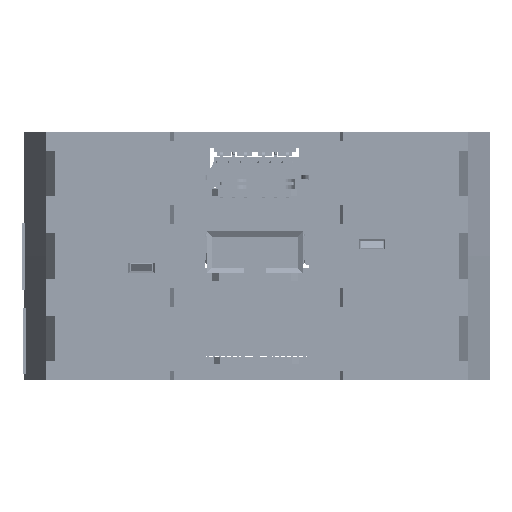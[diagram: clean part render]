
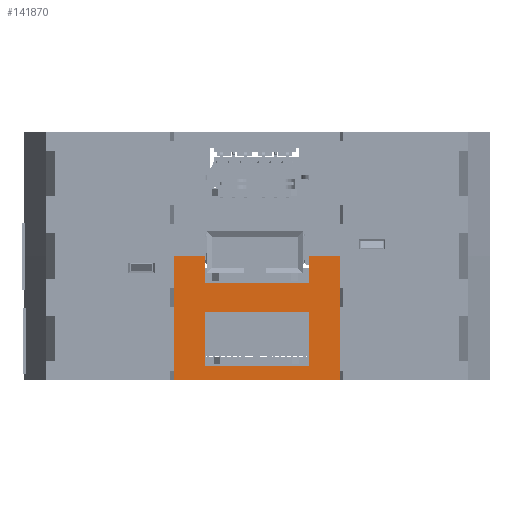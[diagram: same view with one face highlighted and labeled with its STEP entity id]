
A CAD part, front view. The second image highlights one B-rep face of the part: STEP entity #141870.
In plain terms, the highlighted planar face has unit normal (0, -1, 0).
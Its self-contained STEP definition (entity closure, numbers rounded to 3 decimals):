
#5619=FACE_BOUND('',#22326,.T.);
#14222=FACE_OUTER_BOUND('',#22325,.T.);
#22325=EDGE_LOOP('',(#116808,#116809,#116810,#116811,#116812,#116813,#116814,
#116815,#116816,#116817,#116818,#116819,#116820,#116821));
#22326=EDGE_LOOP('',(#116822,#116823,#116824,#116825));
#35656=LINE('',#233890,#52421);
#35792=LINE('',#234183,#52557);
#35831=LINE('',#234261,#52596);
#35832=LINE('',#234264,#52597);
#35833=LINE('',#234266,#52598);
#35834=LINE('',#234268,#52599);
#35835=LINE('',#234269,#52600);
#35836=LINE('',#234271,#52601);
#35837=LINE('',#234273,#52602);
#35838=LINE('',#234275,#52603);
#35839=LINE('',#234277,#52604);
#35840=LINE('',#234279,#52605);
#35841=LINE('',#234281,#52606);
#35842=LINE('',#234282,#52607);
#35843=LINE('',#234285,#52608);
#35844=LINE('',#234287,#52609);
#35845=LINE('',#234289,#52610);
#35846=LINE('',#234290,#52611);
#52421=VECTOR('',#179415,1.);
#52557=VECTOR('',#179607,1.);
#52596=VECTOR('',#179654,1.);
#52597=VECTOR('',#179657,1.);
#52598=VECTOR('',#179658,1.);
#52599=VECTOR('',#179659,1.);
#52600=VECTOR('',#179660,1.);
#52601=VECTOR('',#179661,1.);
#52602=VECTOR('',#179662,1.);
#52603=VECTOR('',#179663,1.);
#52604=VECTOR('',#179664,1.);
#52605=VECTOR('',#179665,1.);
#52606=VECTOR('',#179666,1.);
#52607=VECTOR('',#179667,1.);
#52608=VECTOR('',#179668,1.);
#52609=VECTOR('',#179669,1.);
#52610=VECTOR('',#179670,1.);
#52611=VECTOR('',#179671,1.);
#66826=VERTEX_POINT('',#233887);
#66827=VERTEX_POINT('',#233889);
#66955=VERTEX_POINT('',#234180);
#66956=VERTEX_POINT('',#234182);
#66991=VERTEX_POINT('',#234259);
#66992=VERTEX_POINT('',#234263);
#66993=VERTEX_POINT('',#234265);
#66994=VERTEX_POINT('',#234267);
#66995=VERTEX_POINT('',#234270);
#66996=VERTEX_POINT('',#234272);
#66997=VERTEX_POINT('',#234274);
#66998=VERTEX_POINT('',#234276);
#66999=VERTEX_POINT('',#234278);
#67000=VERTEX_POINT('',#234280);
#67001=VERTEX_POINT('',#234283);
#67002=VERTEX_POINT('',#234284);
#67003=VERTEX_POINT('',#234286);
#67004=VERTEX_POINT('',#234288);
#84207=EDGE_CURVE('',#66827,#66826,#35656,.T.);
#84353=EDGE_CURVE('',#66955,#66956,#35792,.T.);
#84394=EDGE_CURVE('',#66956,#66991,#35831,.T.);
#84395=EDGE_CURVE('',#66992,#66827,#35832,.T.);
#84396=EDGE_CURVE('',#66993,#66826,#35833,.T.);
#84397=EDGE_CURVE('',#66994,#66993,#35834,.T.);
#84398=EDGE_CURVE('',#66991,#66994,#35835,.T.);
#84399=EDGE_CURVE('',#66955,#66995,#35836,.T.);
#84400=EDGE_CURVE('',#66995,#66996,#35837,.T.);
#84401=EDGE_CURVE('',#66996,#66997,#35838,.T.);
#84402=EDGE_CURVE('',#66997,#66998,#35839,.T.);
#84403=EDGE_CURVE('',#66998,#66999,#35840,.T.);
#84404=EDGE_CURVE('',#66999,#67000,#35841,.T.);
#84405=EDGE_CURVE('',#67000,#66992,#35842,.T.);
#84406=EDGE_CURVE('',#67001,#67002,#35843,.T.);
#84407=EDGE_CURVE('',#67002,#67003,#35844,.T.);
#84408=EDGE_CURVE('',#67003,#67004,#35845,.T.);
#84409=EDGE_CURVE('',#67004,#67001,#35846,.T.);
#116808=ORIENTED_EDGE('',*,*,#84395,.T.);
#116809=ORIENTED_EDGE('',*,*,#84207,.T.);
#116810=ORIENTED_EDGE('',*,*,#84396,.F.);
#116811=ORIENTED_EDGE('',*,*,#84397,.F.);
#116812=ORIENTED_EDGE('',*,*,#84398,.F.);
#116813=ORIENTED_EDGE('',*,*,#84394,.F.);
#116814=ORIENTED_EDGE('',*,*,#84353,.F.);
#116815=ORIENTED_EDGE('',*,*,#84399,.T.);
#116816=ORIENTED_EDGE('',*,*,#84400,.T.);
#116817=ORIENTED_EDGE('',*,*,#84401,.T.);
#116818=ORIENTED_EDGE('',*,*,#84402,.T.);
#116819=ORIENTED_EDGE('',*,*,#84403,.T.);
#116820=ORIENTED_EDGE('',*,*,#84404,.T.);
#116821=ORIENTED_EDGE('',*,*,#84405,.T.);
#116822=ORIENTED_EDGE('',*,*,#84406,.T.);
#116823=ORIENTED_EDGE('',*,*,#84407,.T.);
#116824=ORIENTED_EDGE('',*,*,#84408,.T.);
#116825=ORIENTED_EDGE('',*,*,#84409,.T.);
#135072=PLANE('',#151632);
#141870=ADVANCED_FACE('',(#14222,#5619),#135072,.T.);
#151632=AXIS2_PLACEMENT_3D('',#234262,#179655,#179656);
#179415=DIRECTION('',(-1.,0.,0.));
#179607=DIRECTION('',(-1.,0.,0.));
#179654=DIRECTION('',(0.,0.,1.));
#179655=DIRECTION('center_axis',(0.,-1.,0.));
#179656=DIRECTION('ref_axis',(0.,0.,-1.));
#179657=DIRECTION('',(0.,0.,1.));
#179658=DIRECTION('',(0.,0.,1.));
#179659=DIRECTION('',(0.,0.,1.));
#179660=DIRECTION('',(0.,0.,1.));
#179661=DIRECTION('',(0.,0.,1.));
#179662=DIRECTION('',(0.,0.,1.));
#179663=DIRECTION('',(0.,0.,1.));
#179664=DIRECTION('',(0.,0.,1.));
#179665=DIRECTION('',(-1.,0.,0.));
#179666=DIRECTION('',(0.,0.,-1.));
#179667=DIRECTION('',(-1.,0.,0.));
#179668=DIRECTION('',(0.,0.,-1.));
#179669=DIRECTION('',(-1.,0.,0.));
#179670=DIRECTION('',(0.,0.,1.));
#179671=DIRECTION('',(1.,0.,0.));
#233887=CARTESIAN_POINT('',(3.4,-103.65,26.25));
#233889=CARTESIAN_POINT('',(9.9,-103.65,26.25));
#233890=CARTESIAN_POINT('',(9.9,-103.65,26.25));
#234180=CARTESIAN_POINT('',(38.4,-103.65,0.));
#234182=CARTESIAN_POINT('',(3.4,-103.65,0.));
#234183=CARTESIAN_POINT('',(38.4,-103.65,0.));
#234259=CARTESIAN_POINT('',(3.4,-103.65,2.));
#234261=CARTESIAN_POINT('',(3.4,-103.65,0.));
#234262=CARTESIAN_POINT('Origin',(38.4,-103.65,0.));
#234263=CARTESIAN_POINT('',(9.9,-103.65,20.5));
#234264=CARTESIAN_POINT('',(9.9,-103.65,20.5));
#234265=CARTESIAN_POINT('',(3.4,-103.65,19.5));
#234266=CARTESIAN_POINT('',(3.4,-103.65,19.5));
#234267=CARTESIAN_POINT('',(3.4,-103.65,15.5));
#234268=CARTESIAN_POINT('',(3.4,-103.65,15.5));
#234269=CARTESIAN_POINT('',(3.4,-103.65,2.));
#234270=CARTESIAN_POINT('',(38.4,-103.65,2.));
#234271=CARTESIAN_POINT('',(38.4,-103.65,0.));
#234272=CARTESIAN_POINT('',(38.4,-103.65,15.5));
#234273=CARTESIAN_POINT('',(38.4,-103.65,2.));
#234274=CARTESIAN_POINT('',(38.4,-103.65,19.5));
#234275=CARTESIAN_POINT('',(38.4,-103.65,15.5));
#234276=CARTESIAN_POINT('',(38.4,-103.65,26.25));
#234277=CARTESIAN_POINT('',(38.4,-103.65,19.5));
#234278=CARTESIAN_POINT('',(31.9,-103.65,26.25));
#234279=CARTESIAN_POINT('',(38.4,-103.65,26.25));
#234280=CARTESIAN_POINT('',(31.9,-103.65,20.5));
#234281=CARTESIAN_POINT('',(31.9,-103.65,26.25));
#234282=CARTESIAN_POINT('',(31.9,-103.65,20.5));
#234283=CARTESIAN_POINT('',(31.9,-103.65,14.5));
#234284=CARTESIAN_POINT('',(31.9,-103.65,3.));
#234285=CARTESIAN_POINT('',(31.9,-103.65,14.5));
#234286=CARTESIAN_POINT('',(9.9,-103.65,3.));
#234287=CARTESIAN_POINT('',(31.9,-103.65,3.));
#234288=CARTESIAN_POINT('',(9.9,-103.65,14.5));
#234289=CARTESIAN_POINT('',(9.9,-103.65,3.));
#234290=CARTESIAN_POINT('',(9.9,-103.65,14.5));
